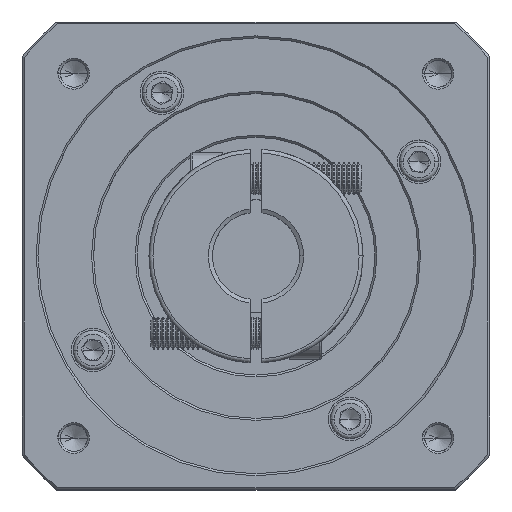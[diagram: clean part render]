
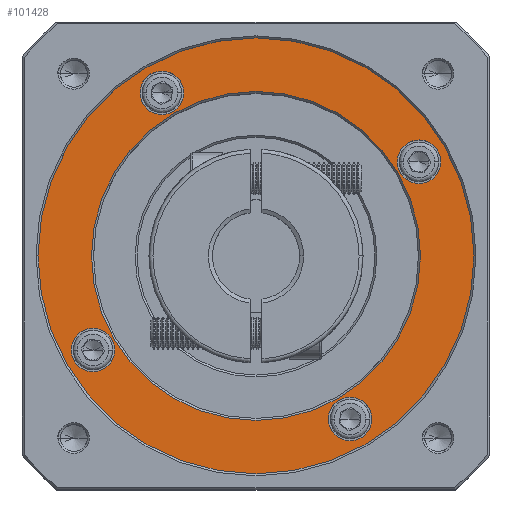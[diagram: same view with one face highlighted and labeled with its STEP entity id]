
A CAD part, top view. The second image highlights one B-rep face of the part: STEP entity #101428.
In plain terms, the highlighted planar face has unit normal (0, 0, 1).
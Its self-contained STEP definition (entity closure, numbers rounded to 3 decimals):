
#58 = CARTESIAN_POINT ( 'NONE',  ( 7.621, 99.635, 9.997 ) ) ;
#2229 = DIRECTION ( 'NONE',  ( 1., 0., 0. ) ) ;
#2336 = ORIENTED_EDGE ( 'NONE', *, *, #118541, .T. ) ;
#2947 = EDGE_CURVE ( 'NONE', #117434, #67523, #92692, .T. ) ;
#3435 = CIRCLE ( 'NONE', #118059, 5.5 ) ;
#3802 = CARTESIAN_POINT ( 'NONE',  ( 19.507, 164.521, 9.997 ) ) ;
#4716 = FACE_BOUND ( 'NONE', #22306, .T. ) ;
#6181 = EDGE_LOOP ( 'NONE', ( #2336, #44679 ) ) ;
#6325 = DIRECTION ( 'NONE',  ( 0., 0., 1. ) ) ;
#7897 = AXIS2_PLACEMENT_3D ( 'NONE', #3802, #69635, #13186 ) ;
#9666 = ORIENTED_EDGE ( 'NONE', *, *, #2947, .T. ) ;
#11591 = DIRECTION ( 'NONE',  ( 0., 0., -1. ) ) ;
#12120 = AXIS2_PLACEMENT_3D ( 'NONE', #108525, #52278, #117958 ) ;
#12278 = EDGE_CURVE ( 'NONE', #86830, #85989, #65273, .T. ) ;
#12326 = CIRCLE ( 'NONE', #77391, 5.5 ) ;
#13186 = DIRECTION ( 'NONE',  ( 1., 0., 0. ) ) ;
#19268 = CARTESIAN_POINT ( 'NONE',  ( 98.257, 123.385, 9.997 ) ) ;
#21046 = VERTEX_POINT ( 'NONE', #57011 ) ;
#22306 = EDGE_LOOP ( 'NONE', ( #48842, #66053 ) ) ;
#23858 = CARTESIAN_POINT ( 'NONE',  ( 84.393, 147.135, 9.997 ) ) ;
#25479 = CIRCLE ( 'NONE', #42977, 55. ) ;
#26885 = CARTESIAN_POINT ( 'NONE',  ( 78.893, 147.135, 9.997 ) ) ;
#28750 = EDGE_CURVE ( 'NONE', #67523, #117434, #39218, .T. ) ;
#29689 = FACE_BOUND ( 'NONE', #38292, .T. ) ;
#30631 = CARTESIAN_POINT ( 'NONE',  ( 19.507, 164.521, 9.997 ) ) ;
#32427 = CARTESIAN_POINT ( 'NONE',  ( 89.893, 147.135, 9.997 ) ) ;
#33345 = VERTEX_POINT ( 'NONE', #103773 ) ;
#33389 = DIRECTION ( 'NONE',  ( 1., 0., 0. ) ) ;
#35042 = DIRECTION ( 'NONE',  ( 0., 0., -1. ) ) ;
#35138 = CARTESIAN_POINT ( 'NONE',  ( 67.007, 82.249, 9.997 ) ) ;
#36314 = CARTESIAN_POINT ( 'NONE',  ( 43.257, 123.385, 9.997 ) ) ;
#37117 = EDGE_LOOP ( 'NONE', ( #9666, #51753 ) ) ;
#38292 = EDGE_LOOP ( 'NONE', ( #101419, #117464 ) ) ;
#39218 = CIRCLE ( 'NONE', #7897, 5.5 ) ;
#40109 = DIRECTION ( 'NONE',  ( 1., 0., 0. ) ) ;
#42416 = AXIS2_PLACEMENT_3D ( 'NONE', #91376, #35042, #100843 ) ;
#42977 = AXIS2_PLACEMENT_3D ( 'NONE', #110350, #54106, #119769 ) ;
#43999 = DIRECTION ( 'NONE',  ( 0., 0., -1. ) ) ;
#44636 = DIRECTION ( 'NONE',  ( 1., 0., 0. ) ) ;
#44679 = ORIENTED_EDGE ( 'NONE', *, *, #107399, .T. ) ;
#45800 = DIRECTION ( 'NONE',  ( 1., 0., 0. ) ) ;
#48083 = CARTESIAN_POINT ( 'NONE',  ( 61.507, 82.249, 9.997 ) ) ;
#48842 = ORIENTED_EDGE ( 'NONE', *, *, #95424, .T. ) ;
#50255 = EDGE_LOOP ( 'NONE', ( #113539, #111571 ) ) ;
#50762 = AXIS2_PLACEMENT_3D ( 'NONE', #36314, #102102, #45800 ) ;
#51753 = ORIENTED_EDGE ( 'NONE', *, *, #28750, .T. ) ;
#51864 = FACE_BOUND ( 'NONE', #37117, .T. ) ;
#52278 = DIRECTION ( 'NONE',  ( 0., 0., -1. ) ) ;
#52660 = VERTEX_POINT ( 'NONE', #58 ) ;
#53091 = EDGE_CURVE ( 'NONE', #52660, #77182, #71597, .T. ) ;
#54106 = DIRECTION ( 'NONE',  ( 0., 0., 1. ) ) ;
#54279 = DIRECTION ( 'NONE',  ( 0., 0., -1. ) ) ;
#54393 = CARTESIAN_POINT ( 'NONE',  ( 14.007, 164.521, 9.997 ) ) ;
#54857 = CIRCLE ( 'NONE', #94771, 41.5 ) ;
#56363 = ORIENTED_EDGE ( 'NONE', *, *, #108190, .T. ) ;
#57011 = CARTESIAN_POINT ( 'NONE',  ( 72.507, 82.249, 9.997 ) ) ;
#58553 = DIRECTION ( 'NONE',  ( 0., 0., -1. ) ) ;
#60242 = CARTESIAN_POINT ( 'NONE',  ( -3.379, 99.635, 9.997 ) ) ;
#62732 = CARTESIAN_POINT ( 'NONE',  ( 43.257, 123.385, 9.997 ) ) ;
#65273 = CIRCLE ( 'NONE', #108085, 5.5 ) ;
#66053 = ORIENTED_EDGE ( 'NONE', *, *, #105076, .T. ) ;
#67069 = EDGE_CURVE ( 'NONE', #74919, #21046, #3435, .T. ) ;
#67523 = VERTEX_POINT ( 'NONE', #54393 ) ;
#68069 = CARTESIAN_POINT ( 'NONE',  ( 43.257, 123.385, 9.997 ) ) ;
#68588 = AXIS2_PLACEMENT_3D ( 'NONE', #110544, #54279, #119949 ) ;
#69635 = DIRECTION ( 'NONE',  ( 0., 0., -1. ) ) ;
#71597 = CIRCLE ( 'NONE', #12120, 5.5 ) ;
#72195 = DIRECTION ( 'NONE',  ( 1., 0., 0. ) ) ;
#74715 = VERTEX_POINT ( 'NONE', #119629 ) ;
#74919 = VERTEX_POINT ( 'NONE', #48083 ) ;
#76860 = FACE_BOUND ( 'NONE', #108150, .T. ) ;
#77182 = VERTEX_POINT ( 'NONE', #60242 ) ;
#77391 = AXIS2_PLACEMENT_3D ( 'NONE', #100315, #43999, #109769 ) ;
#77515 = DIRECTION ( 'NONE',  ( 0., -1., 0. ) ) ;
#85989 = VERTEX_POINT ( 'NONE', #26885 ) ;
#86830 = VERTEX_POINT ( 'NONE', #32427 ) ;
#88366 = EDGE_CURVE ( 'NONE', #85989, #86830, #12326, .T. ) ;
#89137 = EDGE_CURVE ( 'NONE', #77182, #52660, #109116, .T. ) ;
#89709 = DIRECTION ( 'NONE',  ( 0., 0., -1. ) ) ;
#91376 = CARTESIAN_POINT ( 'NONE',  ( 67.007, 82.249, 9.997 ) ) ;
#91582 = CIRCLE ( 'NONE', #42416, 5.5 ) ;
#92158 = CARTESIAN_POINT ( 'NONE',  ( -11.743, 123.385, 9.997 ) ) ;
#92692 = CIRCLE ( 'NONE', #93370, 5.5 ) ;
#93370 = AXIS2_PLACEMENT_3D ( 'NONE', #30631, #96437, #40109 ) ;
#94771 = AXIS2_PLACEMENT_3D ( 'NONE', #68069, #11591, #77515 ) ;
#94849 = CIRCLE ( 'NONE', #104548, 55. ) ;
#95424 = EDGE_CURVE ( 'NONE', #33345, #74715, #54857, .T. ) ;
#96437 = DIRECTION ( 'NONE',  ( 0., 0., -1. ) ) ;
#97592 = ORIENTED_EDGE ( 'NONE', *, *, #67069, .T. ) ;
#100145 = CIRCLE ( 'NONE', #68588, 41.5 ) ;
#100315 = CARTESIAN_POINT ( 'NONE',  ( 84.393, 147.135, 9.997 ) ) ;
#100843 = DIRECTION ( 'NONE',  ( 1., 0., 0. ) ) ;
#100944 = DIRECTION ( 'NONE',  ( 0., 0., -1. ) ) ;
#101419 = ORIENTED_EDGE ( 'NONE', *, *, #53091, .T. ) ;
#101428 = ADVANCED_FACE ( 'NONE', ( #113588, #4716, #101795, #76860, #51864, #29689 ), #120601, .T. ) ;
#101795 = FACE_BOUND ( 'NONE', #50255, .T. ) ;
#102102 = DIRECTION ( 'NONE',  ( 0., 0., 1. ) ) ;
#103773 = CARTESIAN_POINT ( 'NONE',  ( 43.257, 81.885, 9.997 ) ) ;
#104548 = AXIS2_PLACEMENT_3D ( 'NONE', #62732, #6325, #72195 ) ;
#105076 = EDGE_CURVE ( 'NONE', #74715, #33345, #100145, .T. ) ;
#107399 = EDGE_CURVE ( 'NONE', #110666, #117699, #94849, .T. ) ;
#108085 = AXIS2_PLACEMENT_3D ( 'NONE', #23858, #89709, #33389 ) ;
#108150 = EDGE_LOOP ( 'NONE', ( #56363, #97592 ) ) ;
#108190 = EDGE_CURVE ( 'NONE', #21046, #74919, #91582, .T. ) ;
#108525 = CARTESIAN_POINT ( 'NONE',  ( 2.121, 99.635, 9.997 ) ) ;
#109116 = CIRCLE ( 'NONE', #120015, 5.5 ) ;
#109769 = DIRECTION ( 'NONE',  ( 1., 0., 0. ) ) ;
#110350 = CARTESIAN_POINT ( 'NONE',  ( 43.257, 123.385, 9.997 ) ) ;
#110544 = CARTESIAN_POINT ( 'NONE',  ( 43.257, 123.385, 9.997 ) ) ;
#110666 = VERTEX_POINT ( 'NONE', #92158 ) ;
#111571 = ORIENTED_EDGE ( 'NONE', *, *, #88366, .T. ) ;
#113539 = ORIENTED_EDGE ( 'NONE', *, *, #12278, .T. ) ;
#113588 = FACE_OUTER_BOUND ( 'NONE', #6181, .T. ) ;
#114858 = CARTESIAN_POINT ( 'NONE',  ( 2.121, 99.635, 9.997 ) ) ;
#117434 = VERTEX_POINT ( 'NONE', #118836 ) ;
#117464 = ORIENTED_EDGE ( 'NONE', *, *, #89137, .T. ) ;
#117699 = VERTEX_POINT ( 'NONE', #19268 ) ;
#117958 = DIRECTION ( 'NONE',  ( 1., 0., 0. ) ) ;
#118059 = AXIS2_PLACEMENT_3D ( 'NONE', #35138, #100944, #44636 ) ;
#118541 = EDGE_CURVE ( 'NONE', #117699, #110666, #25479, .T. ) ;
#118836 = CARTESIAN_POINT ( 'NONE',  ( 25.007, 164.521, 9.997 ) ) ;
#119629 = CARTESIAN_POINT ( 'NONE',  ( 43.257, 164.885, 9.997 ) ) ;
#119769 = DIRECTION ( 'NONE',  ( 1., 0., 0. ) ) ;
#119949 = DIRECTION ( 'NONE',  ( 0., -1., 0. ) ) ;
#120015 = AXIS2_PLACEMENT_3D ( 'NONE', #114858, #58553, #2229 ) ;
#120601 = PLANE ( 'NONE',  #50762 ) ;
